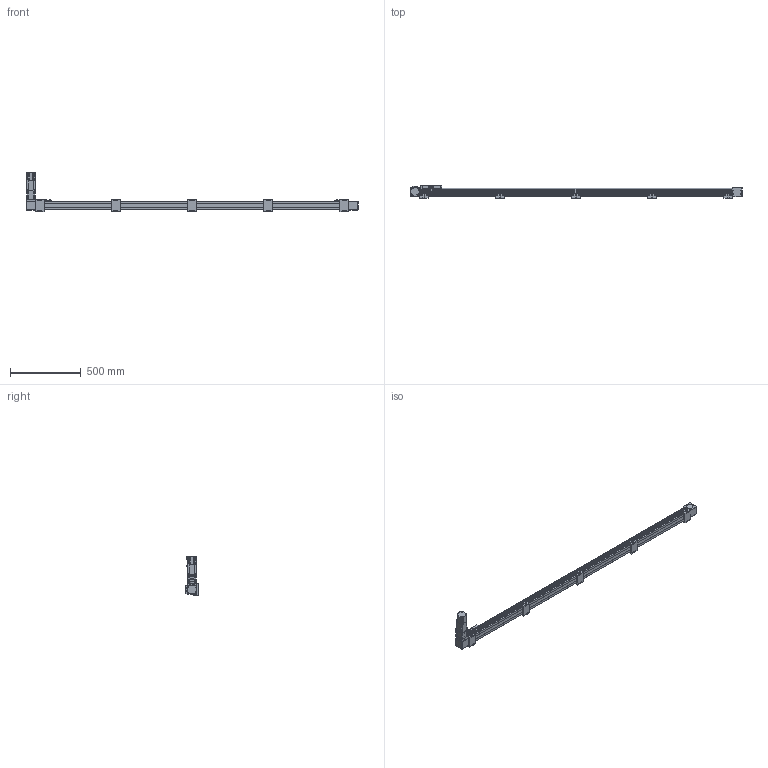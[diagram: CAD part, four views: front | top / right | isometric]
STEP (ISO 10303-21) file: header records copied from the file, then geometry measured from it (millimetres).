
FILE_DESCRIPTION(/* description */ ('STEP AP203'),/* implementation_level */ '2;1');
FILE_NAME(/* name */ 'SK60-P13-S2050-BL-T40-C1-N(0)',/* time_stamp */ '2023-04-06T03:37:38+02:00',/* author */ ('License CC BY-ND 4.0'),/* organization */ ('CADENAS'),/* preprocessor_version */ 'ST-DEVELOPER v19.3',/* originating_system */ 'PARTsolutions',/* authorisation */ ' ');
FILE_SCHEMA (('CONFIG_CONTROL_DESIGN'));
Length unit declared in the file: millimetre
Products named in the file (11): SK60-P13-S2050-BL-T40-C1-N(0); PSC140-sensor; SK60-S450_seat; SK60-S450-BL-C1_slider; SK60_body3; SK60_body6; SK60-BL_body2; T40-p1; SK60_body5; SK60_body4; SK60-S2050-BL-C1_body
Assembly tree (20 placements, depth 2):
  SK60-P13-S2050-BL-T40-C1-N(0)
    PSC140-sensor  x3
    SK60-S450_seat  x5
    SK60-S450-BL-C1_slider
    SK60_body3  x3
    SK60_body6  x2
    SK60-BL_body2  x2
    T40-p1
    SK60_body5
    SK60_body4
    SK60-S2050-BL-C1_body
Bounding box: 2350 x 90 x 278.2 mm (x, y, z)
Volume: 8620507.3 mm3; surface area: 1078369.3 mm2
Topology: 20 solids, 24 shells, 966 faces, 2403 edges, 1586 vertices
Faces by surface type: plane 616, cylinder 314, cone 34, torus 2
Full cylindrical faces by diameter (mm): 2.8 x3, 3.3 x4, 4.2 x8, 4.5 x26, 4.6 x3, 4.917 x28, 5 x2, 5.478 x4, 5.5 x31, 6.5 x10, 8 x4, 8.5 x4, 9.988 x4, 10 x20, 13.556 x1, 14 x1, 14.586 x1, 19.692 x1, 38.432 x2, 43 x1, 44 x3, 47 x2, 50 x2
Entity records: 19395 total; most frequent: DIRECTION 3298, CARTESIAN_POINT 3292, ORIENTED_EDGE 3050, EDGE_CURVE 1525, AXIS2_PLACEMENT_3D 1103, LINE 1092, VECTOR 1092, VERTEX_POINT 1077
